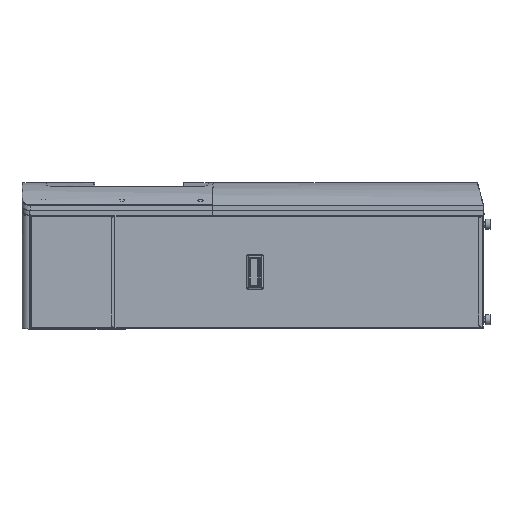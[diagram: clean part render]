
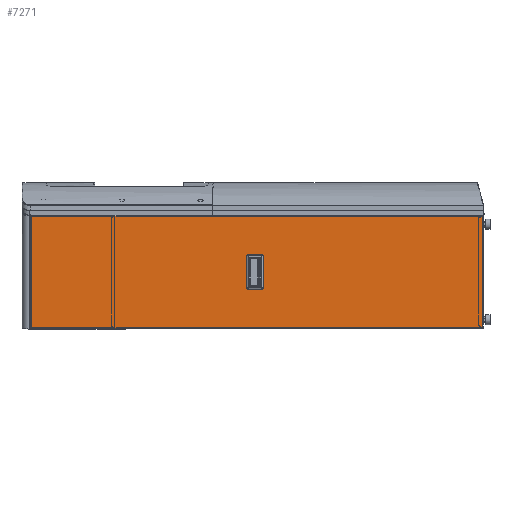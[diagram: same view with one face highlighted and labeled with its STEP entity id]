
A CAD part, left-side view. The second image highlights one B-rep face of the part: STEP entity #7271.
In plain terms, the highlighted planar face has unit normal (-1, 0, 0).
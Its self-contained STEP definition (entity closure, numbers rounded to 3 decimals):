
#4585=DIRECTION('',(0.,0.,1.));
#4586=VECTOR('',#4585,260.);
#4587=CARTESIAN_POINT('',(-1.2,-557.5,-130.));
#4588=LINE('',#4587,#4586);
#4593=DIRECTION('',(0.,1.,0.));
#4594=VECTOR('',#4593,2.);
#4595=CARTESIAN_POINT('',(-1.2,-559.5,135.2));
#4596=LINE('',#4595,#4594);
#4597=DIRECTION('',(0.,0.,-1.));
#4598=VECTOR('',#4597,5.2);
#4599=CARTESIAN_POINT('',(-1.2,-557.5,135.2));
#4600=LINE('',#4599,#4598);
#4601=DIRECTION('',(0.,0.,-1.));
#4602=VECTOR('',#4601,1.);
#4603=CARTESIAN_POINT('',(-1.2,-557.5,-130.));
#4604=LINE('',#4603,#4602);
#4605=DIRECTION('',(0.,0.,-1.));
#4606=VECTOR('',#4605,7.2);
#4607=CARTESIAN_POINT('',(-1.2,-559.5,-131.));
#4608=LINE('',#4607,#4606);
#4609=DIRECTION('',(0.,0.,1.));
#4610=VECTOR('',#4609,3.);
#4611=CARTESIAN_POINT('',(-1.2,559.5,-138.2));
#4612=LINE('',#4611,#4610);
#4613=DIRECTION('',(0.,-1.,0.));
#4614=VECTOR('',#4613,2.);
#4615=CARTESIAN_POINT('',(-1.2,559.5,-135.2));
#4616=LINE('',#4615,#4614);
#4617=DIRECTION('',(0.,0.,1.));
#4618=VECTOR('',#4617,0.2);
#4619=CARTESIAN_POINT('',(-1.2,557.5,-135.2));
#4620=LINE('',#4619,#4618);
#4621=DIRECTION('',(0.,0.,1.));
#4622=VECTOR('',#4621,0.2);
#4623=CARTESIAN_POINT('',(-1.2,557.5,135.));
#4624=LINE('',#4623,#4622);
#4625=DIRECTION('',(0.,0.,1.));
#4626=VECTOR('',#4625,3.);
#4627=CARTESIAN_POINT('',(-1.2,559.5,135.2));
#4628=LINE('',#4627,#4626);
#4629=DIRECTION('',(0.,0.,-1.));
#4630=VECTOR('',#4629,3.);
#4631=CARTESIAN_POINT('',(-1.2,-559.5,138.2));
#4632=LINE('',#4631,#4630);
#4659=DIRECTION('',(0.,1.,0.));
#4660=VECTOR('',#4659,1119.);
#4661=CARTESIAN_POINT('',(-1.2,-559.5,138.2));
#4662=LINE('',#4661,#4660);
#5412=DIRECTION('',(0.,-1.,0.));
#5413=VECTOR('',#5412,2.);
#5414=CARTESIAN_POINT('',(-1.2,559.5,135.2));
#5415=LINE('',#5414,#5413);
#5628=DIRECTION('',(0.,0.,-1.));
#5629=VECTOR('',#5628,270.);
#5630=CARTESIAN_POINT('',(-1.2,557.5,135.));
#5631=LINE('',#5630,#5629);
#5674=DIRECTION('',(0.,-1.,0.));
#5675=VECTOR('',#5674,1119.);
#5676=CARTESIAN_POINT('',(-1.2,559.5,-138.2));
#5677=LINE('',#5676,#5675);
#6254=DIRECTION('',(0.,1.,0.));
#6255=VECTOR('',#6254,2.);
#6256=CARTESIAN_POINT('',(-1.2,-559.5,-131.));
#6257=LINE('',#6256,#6255);
#6282=DIRECTION('',(0.,-1.,0.));
#6283=VECTOR('',#6282,30.);
#6284=CARTESIAN_POINT('',(-1.2,20.5,38.));
#6285=LINE('',#6284,#6283);
#6294=DIRECTION('',(0.,0.,-1.));
#6295=VECTOR('',#6294,76.);
#6296=CARTESIAN_POINT('',(-1.2,-9.5,38.));
#6297=LINE('',#6296,#6295);
#6302=DIRECTION('',(0.,1.,0.));
#6303=VECTOR('',#6302,30.);
#6304=CARTESIAN_POINT('',(-1.2,-9.5,-38.));
#6305=LINE('',#6304,#6303);
#6318=DIRECTION('',(0.,0.,1.));
#6319=VECTOR('',#6318,76.);
#6320=CARTESIAN_POINT('',(-1.2,20.5,-38.));
#6321=LINE('',#6320,#6319);
#6380=CARTESIAN_POINT('',(-1.2,-557.5,-130.));
#6381=VERTEX_POINT('',#6380);
#6440=CARTESIAN_POINT('',(-1.2,-557.5,130.));
#6441=VERTEX_POINT('',#6440);
#6442=CARTESIAN_POINT('',(-1.2,-557.5,135.2));
#6443=VERTEX_POINT('',#6442);
#6444=CARTESIAN_POINT('',(-1.2,-559.5,135.2));
#6445=VERTEX_POINT('',#6444);
#6446=CARTESIAN_POINT('',(-1.2,-557.5,-131.));
#6447=VERTEX_POINT('',#6446);
#6448=CARTESIAN_POINT('',(-1.2,-559.5,-131.));
#6449=VERTEX_POINT('',#6448);
#6450=CARTESIAN_POINT('',(-1.2,-559.5,-138.2));
#6451=VERTEX_POINT('',#6450);
#6452=CARTESIAN_POINT('',(-1.2,559.5,-138.2));
#6453=VERTEX_POINT('',#6452);
#6454=CARTESIAN_POINT('',(-1.2,559.5,-135.2));
#6455=VERTEX_POINT('',#6454);
#6456=CARTESIAN_POINT('',(-1.2,557.5,-135.2));
#6457=VERTEX_POINT('',#6456);
#6458=CARTESIAN_POINT('',(-1.2,557.5,-135.));
#6459=VERTEX_POINT('',#6458);
#6460=CARTESIAN_POINT('',(-1.2,557.5,135.));
#6461=VERTEX_POINT('',#6460);
#6462=CARTESIAN_POINT('',(-1.2,557.5,135.2));
#6463=VERTEX_POINT('',#6462);
#6464=CARTESIAN_POINT('',(-1.2,559.5,135.2));
#6465=VERTEX_POINT('',#6464);
#6466=CARTESIAN_POINT('',(-1.2,559.5,138.2));
#6467=VERTEX_POINT('',#6466);
#6468=CARTESIAN_POINT('',(-1.2,-559.5,138.2));
#6469=VERTEX_POINT('',#6468);
#6470=CARTESIAN_POINT('',(-1.2,20.5,38.));
#6471=CARTESIAN_POINT('',(-1.2,-9.5,38.));
#6472=VERTEX_POINT('',#6470);
#6473=VERTEX_POINT('',#6471);
#6474=CARTESIAN_POINT('',(-1.2,20.5,-38.));
#6475=VERTEX_POINT('',#6474);
#6476=CARTESIAN_POINT('',(-1.2,-9.5,-38.));
#6477=VERTEX_POINT('',#6476);
#7224=CARTESIAN_POINT('',(-1.2,0.,0.));
#7225=DIRECTION('',(1.,0.,0.));
#7226=DIRECTION('',(0.,0.,-1.));
#7227=AXIS2_PLACEMENT_3D('',#7224,#7225,#7226);
#7228=PLANE('',#7227);
#7230=ORIENTED_EDGE('',*,*,#7229,.T.);
#7231=ORIENTED_EDGE('',*,*,#7097,.T.);
#7232=ORIENTED_EDGE('',*,*,#7217,.F.);
#7234=ORIENTED_EDGE('',*,*,#7233,.T.);
#7236=ORIENTED_EDGE('',*,*,#7235,.F.);
#7238=ORIENTED_EDGE('',*,*,#7237,.T.);
#7240=ORIENTED_EDGE('',*,*,#7239,.F.);
#7242=ORIENTED_EDGE('',*,*,#7241,.T.);
#7244=ORIENTED_EDGE('',*,*,#7243,.T.);
#7246=ORIENTED_EDGE('',*,*,#7245,.T.);
#7248=ORIENTED_EDGE('',*,*,#7247,.F.);
#7250=ORIENTED_EDGE('',*,*,#7249,.T.);
#7252=ORIENTED_EDGE('',*,*,#7251,.F.);
#7254=ORIENTED_EDGE('',*,*,#7253,.T.);
#7256=ORIENTED_EDGE('',*,*,#7255,.F.);
#7258=ORIENTED_EDGE('',*,*,#7257,.T.);
#7259=EDGE_LOOP('',(#7230,#7231,#7232,#7234,#7236,#7238,#7240,#7242,#7244,#7246,
#7248,#7250,#7252,#7254,#7256,#7258));
#7260=FACE_OUTER_BOUND('',#7259,.F.);
#7262=ORIENTED_EDGE('',*,*,#7261,.F.);
#7264=ORIENTED_EDGE('',*,*,#7263,.F.);
#7266=ORIENTED_EDGE('',*,*,#7265,.F.);
#7268=ORIENTED_EDGE('',*,*,#7267,.F.);
#7269=EDGE_LOOP('',(#7262,#7264,#7266,#7268));
#7270=FACE_BOUND('',#7269,.F.);
#7271=ADVANCED_FACE('',(#7260,#7270),#7228,.F.);
#7097=EDGE_CURVE('',#6443,#6441,#4600,.T.);
#7217=EDGE_CURVE('',#6381,#6441,#4588,.T.);
#7229=EDGE_CURVE('',#6445,#6443,#4596,.T.);
#7233=EDGE_CURVE('',#6381,#6447,#4604,.T.);
#7235=EDGE_CURVE('',#6449,#6447,#6257,.T.);
#7237=EDGE_CURVE('',#6449,#6451,#4608,.T.);
#7239=EDGE_CURVE('',#6453,#6451,#5677,.T.);
#7241=EDGE_CURVE('',#6453,#6455,#4612,.T.);
#7243=EDGE_CURVE('',#6455,#6457,#4616,.T.);
#7245=EDGE_CURVE('',#6457,#6459,#4620,.T.);
#7247=EDGE_CURVE('',#6461,#6459,#5631,.T.);
#7249=EDGE_CURVE('',#6461,#6463,#4624,.T.);
#7251=EDGE_CURVE('',#6465,#6463,#5415,.T.);
#7253=EDGE_CURVE('',#6465,#6467,#4628,.T.);
#7255=EDGE_CURVE('',#6469,#6467,#4662,.T.);
#7257=EDGE_CURVE('',#6469,#6445,#4632,.T.);
#7261=EDGE_CURVE('',#6472,#6473,#6285,.T.);
#7263=EDGE_CURVE('',#6475,#6472,#6321,.T.);
#7265=EDGE_CURVE('',#6477,#6475,#6305,.T.);
#7267=EDGE_CURVE('',#6473,#6477,#6297,.T.);
